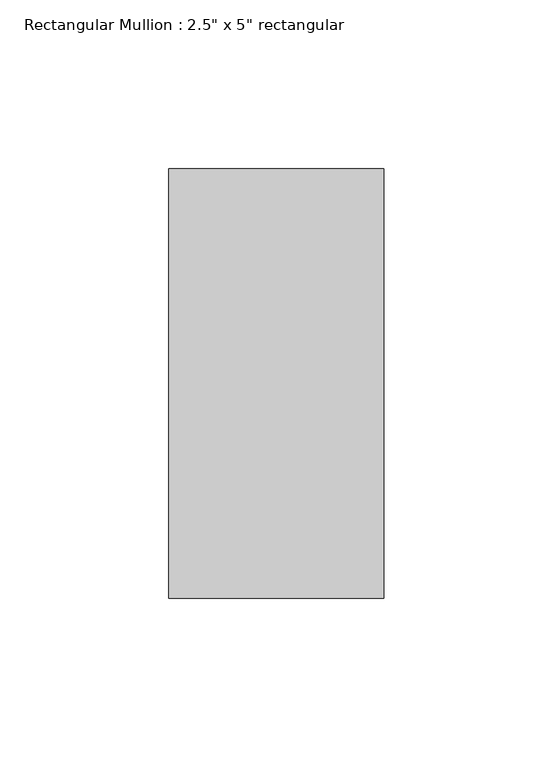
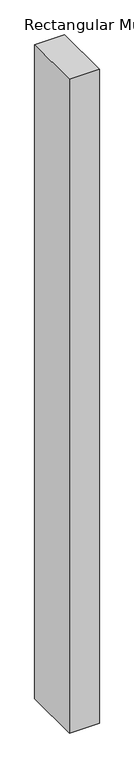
"""IFC4 building model written with IfcOpenShell, lengths in millimetres: member geometry."""

from ifc_helpers import new_model, si_unit, frame, origin, place, context, project, spatial, polyline, outline, extrude, source, transform, mapped, element, save


def member_fed69662(model_context):
    return source(origin(), model_context, "Body", "SweptSolid", [
        extrude(outline(polyline([(0.0, 63.5), (0.0, -63.5), (-63.5, -63.5), (-63.5, 63.5), (0.0, 63.5)])), frame((0.0, 0.0, -1463.044251), z_axis=(0.0, 0.0, 1.0), x_axis=(1.0, 0.0, 0.0)), (0.0, 0.0, 1.0), 1463.044251),
    ])


if __name__ == "__main__":
    model = new_model("IFC4")
    model_context = context("Model", 3, world=origin())
    ifc_project = project(units=[si_unit("LENGTHUNIT", "METRE", prefix="MILLI")], contexts=[model_context])
    site = spatial("IfcSite", under=ifc_project)
    building = spatial("IfcBuilding", under=site)
    placement = place(None, origin())
    member_shape = member_fed69662(model_context)
    element("IfcMember", 1, ObjectType="Rectangular Mullion : 2.5\" x 5\" rectangular", at=placement, inside=building, context=model_context, shape_type="MappedRepresentation", body=[
        mapped(member_shape, transform((0.0, 0.0, 0.0), x_axis=(1.0, 0.0, 0.0), y_axis=(0.0, 1.0, 0.0), z_axis=(0.0, 0.0, 1.0))),
    ])
    save(model, "model.ifc")
